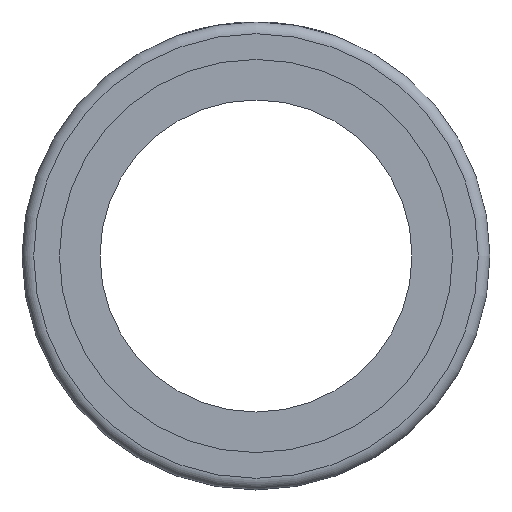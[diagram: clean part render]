
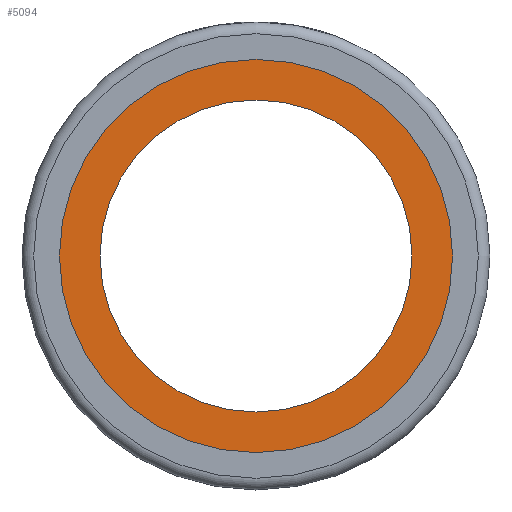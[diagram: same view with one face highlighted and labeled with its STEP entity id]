
A CAD part, left-side view. The second image highlights one B-rep face of the part: STEP entity #5094.
In plain terms, the highlighted planar face has unit normal (-1, 0, 0).
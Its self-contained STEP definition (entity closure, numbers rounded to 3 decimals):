
#119=PLANE('',#5502);
#1191=CIRCLE('',#5499,25.2);
#1193=CIRCLE('',#5503,20.);
#1528=ORIENTED_EDGE('',*,*,#3039,.F.);
#1529=ORIENTED_EDGE('',*,*,#3037,.F.);
#3037=EDGE_CURVE('',#3800,#3800,#1191,.T.);
#3039=EDGE_CURVE('',#3802,#3802,#1193,.T.);
#3800=VERTEX_POINT('',#8120);
#3802=VERTEX_POINT('',#8126);
#4332=EDGE_LOOP('',(#1528));
#4333=EDGE_LOOP('',(#1529));
#4712=FACE_BOUND('',#4332,.T.);
#4713=FACE_BOUND('',#4333,.T.);
#5094=ADVANCED_FACE('',(#4712,#4713),#119,.T.);
#5499=AXIS2_PLACEMENT_3D('',#8119,#6057,#6058);
#5502=AXIS2_PLACEMENT_3D('',#8124,#6063,#6064);
#5503=AXIS2_PLACEMENT_3D('',#8125,#6065,#6066);
#6057=DIRECTION('',(1.,0.,0.));
#6058=DIRECTION('',(0.,-1.,0.));
#6063=DIRECTION('',(-1.,0.,0.));
#6064=DIRECTION('',(0.,0.,1.));
#6065=DIRECTION('',(-1.,0.,0.));
#6066=DIRECTION('',(0.,0.,1.));
#8119=CARTESIAN_POINT('',(-39.2,0.,0.));
#8120=CARTESIAN_POINT('',(-39.2,-25.2,0.));
#8124=CARTESIAN_POINT('',(-39.2,0.,0.));
#8125=CARTESIAN_POINT('',(-39.2,0.,0.));
#8126=CARTESIAN_POINT('',(-39.2,0.,20.));
